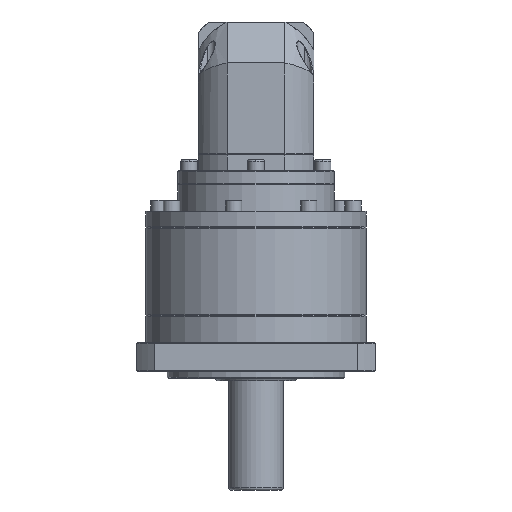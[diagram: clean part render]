
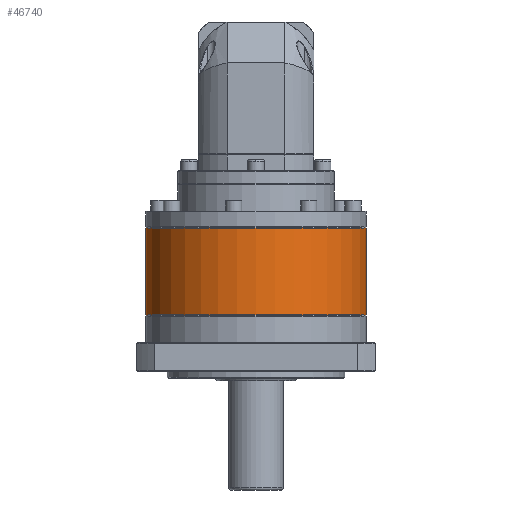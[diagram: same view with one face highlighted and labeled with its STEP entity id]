
A CAD part, front view. The second image highlights one B-rep face of the part: STEP entity #46740.
In plain terms, the highlighted cylindrical face has radius 81 mm (diameter 162 mm), a partial arc.
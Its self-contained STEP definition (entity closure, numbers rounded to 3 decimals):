
#4117 = EDGE_CURVE ( 'NONE', #27023, #12610, #114877, .T. ) ;
#8434 = VERTEX_POINT ( 'NONE', #70286 ) ;
#9189 = VECTOR ( 'NONE', #51876, 1000. ) ;
#10586 = DIRECTION ( 'NONE',  ( 0., 0., -1. ) ) ;
#12610 = VERTEX_POINT ( 'NONE', #24599 ) ;
#20931 = DIRECTION ( 'NONE',  ( 0., 0., -1. ) ) ;
#21633 = DIRECTION ( 'NONE',  ( -1., 0., 0. ) ) ;
#22849 = CIRCLE ( 'NONE', #92040, 81. ) ;
#24599 = CARTESIAN_POINT ( 'NONE',  ( -64.879, 85.314, -192.939 ) ) ;
#25983 = VECTOR ( 'NONE', #126245, 1000. ) ;
#26879 = EDGE_CURVE ( 'NONE', #102458, #12610, #22849, .T. ) ;
#27023 = VERTEX_POINT ( 'NONE', #94484 ) ;
#28004 = CARTESIAN_POINT ( 'NONE',  ( -226.879, 85.314, -128.939 ) ) ;
#29898 = EDGE_CURVE ( 'NONE', #8434, #102458, #72627, .T. ) ;
#32617 = CARTESIAN_POINT ( 'NONE',  ( -145.879, 85.314, -192.939 ) ) ;
#33786 = ORIENTED_EDGE ( 'NONE', *, *, #36915, .T. ) ;
#36915 = EDGE_CURVE ( 'NONE', #27023, #8434, #123135, .T. ) ;
#44311 = DIRECTION ( 'NONE',  ( -1., 0., 0. ) ) ;
#46740 = ADVANCED_FACE ( 'NONE', ( #77297 ), #129921, .T. ) ;
#51876 = DIRECTION ( 'NONE',  ( 0., 0., -1. ) ) ;
#55991 = DIRECTION ( 'NONE',  ( 0., 0., 1. ) ) ;
#57558 = CARTESIAN_POINT ( 'NONE',  ( -145.879, 85.314, -129.439 ) ) ;
#70286 = CARTESIAN_POINT ( 'NONE',  ( -226.879, 85.314, -129.439 ) ) ;
#71877 = ORIENTED_EDGE ( 'NONE', *, *, #4117, .F. ) ;
#72627 = LINE ( 'NONE', #28004, #9189 ) ;
#76502 = EDGE_LOOP ( 'NONE', ( #71877, #33786, #100272, #87099 ) ) ;
#76838 = AXIS2_PLACEMENT_3D ( 'NONE', #77658, #20931, #90887 ) ;
#77297 = FACE_OUTER_BOUND ( 'NONE', #76502, .T. ) ;
#77658 = CARTESIAN_POINT ( 'NONE',  ( -145.879, 85.314, -128.939 ) ) ;
#87099 = ORIENTED_EDGE ( 'NONE', *, *, #26879, .T. ) ;
#90887 = DIRECTION ( 'NONE',  ( -1., 0., 0. ) ) ;
#92040 = AXIS2_PLACEMENT_3D ( 'NONE', #32617, #55991, #44311 ) ;
#94484 = CARTESIAN_POINT ( 'NONE',  ( -64.879, 85.314, -129.439 ) ) ;
#94674 = AXIS2_PLACEMENT_3D ( 'NONE', #57558, #10586, #21633 ) ;
#100272 = ORIENTED_EDGE ( 'NONE', *, *, #29898, .T. ) ;
#102458 = VERTEX_POINT ( 'NONE', #119796 ) ;
#114877 = LINE ( 'NONE', #148115, #25983 ) ;
#119796 = CARTESIAN_POINT ( 'NONE',  ( -226.879, 85.314, -192.939 ) ) ;
#123135 = CIRCLE ( 'NONE', #94674, 81. ) ;
#126245 = DIRECTION ( 'NONE',  ( 0., 0., -1. ) ) ;
#129921 = CYLINDRICAL_SURFACE ( 'NONE', #76838, 81. ) ;
#148115 = CARTESIAN_POINT ( 'NONE',  ( -64.879, 85.314, -128.939 ) ) ;
